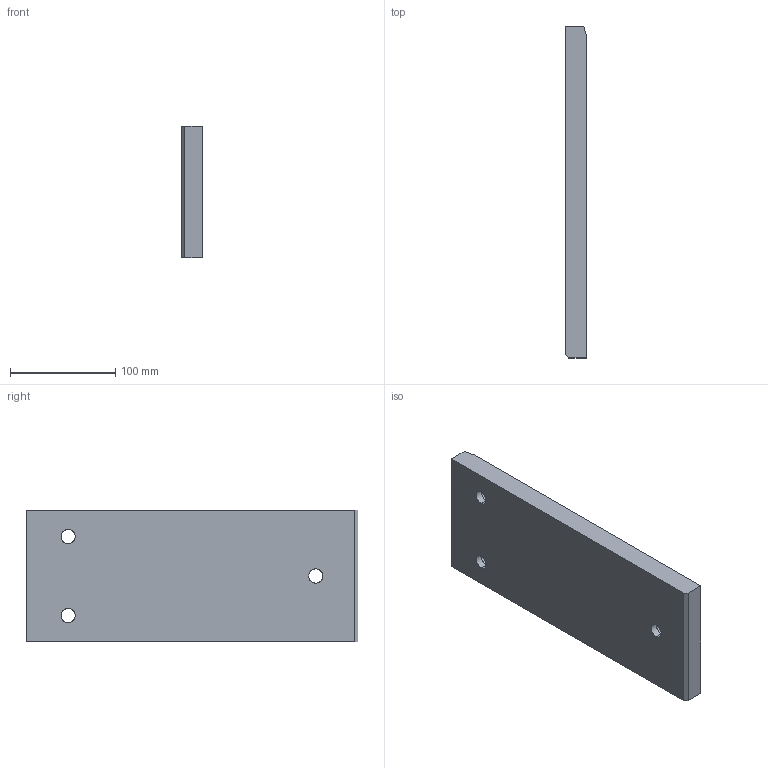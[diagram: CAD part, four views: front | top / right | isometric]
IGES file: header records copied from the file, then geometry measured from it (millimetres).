
Start section: START RECORD GO HERE.
Global section: file name: A915-125X315.igs; native system: DASSAULT SYSTEMES CATIA V5 R20 - www.3ds.com; preprocessor: CATIA Version 5 Release 20 ; author: Utente; organization: NB04-ASUS; date: 20200407.210316; units: millimetre
Bounding box: 20 x 315 x 125 mm (x, y, z)
Surface area: 98054.3 mm2 (no closed solid volume)
Topology: 0 solids, 0 shells, 30 faces, 138 edges, 138 vertices
Faces by surface type: revolution 19, extrusion 11
